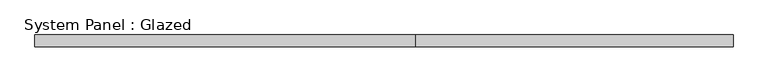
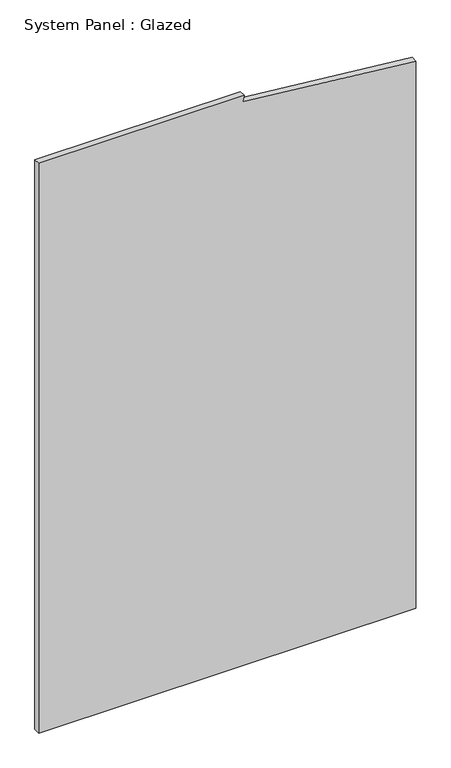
"""IFC4 building model written with IfcOpenShell, lengths in millimetres: plate geometry, System Panel : Glazed."""

from ifc_helpers import new_model, si_unit, frame, origin, place, context, project, spatial, polyline, outline, extrude, source, transform, mapped, element, save


def system_panel_glazed_00ede5d7(model_context):
    return source(origin(), model_context, "Body", "SweptSolid", [
        extrude(outline(polyline([(0.0, -735.8695652), (0.0, 735.8695652), (2257.3662773, 735.8695652), (2325.2508557, 60.7352273), (2350.0, 65.7374905), (2350.0, -735.8695652), (0.0, -735.8695652)])), frame((0.0, 24.5, 0.0), z_axis=(0.0, 1.0, 0.0), x_axis=(0.0, 0.0, 1.0)), (0.0, 0.0, 1.0), 25.0),
    ])


if __name__ == "__main__":
    model = new_model("IFC4")
    model_context = context("Model", 3, world=origin())
    ifc_project = project(units=[si_unit("LENGTHUNIT", "METRE", prefix="MILLI")], contexts=[model_context])
    site = spatial("IfcSite", under=ifc_project)
    building = spatial("IfcBuilding", under=site)
    placement = place(None, origin())
    system_panel_glazed_shape = system_panel_glazed_00ede5d7(model_context)
    element("IfcPlate", 1, ObjectType="System Panel : Glazed", at=placement, inside=building, context=model_context, shape_type="MappedRepresentation", body=[
        mapped(system_panel_glazed_shape, transform((0.0, 0.0, 0.0), x_axis=(1.0, 0.0, 0.0), y_axis=(0.0, 1.0, 0.0), z_axis=(0.0, 0.0, 1.0))),
    ])
    save(model, "model.ifc")
